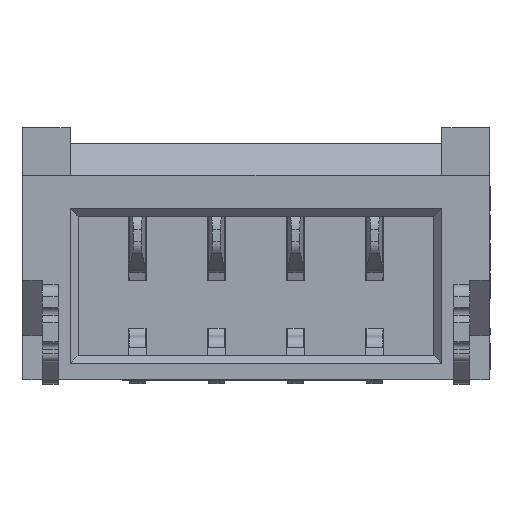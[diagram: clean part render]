
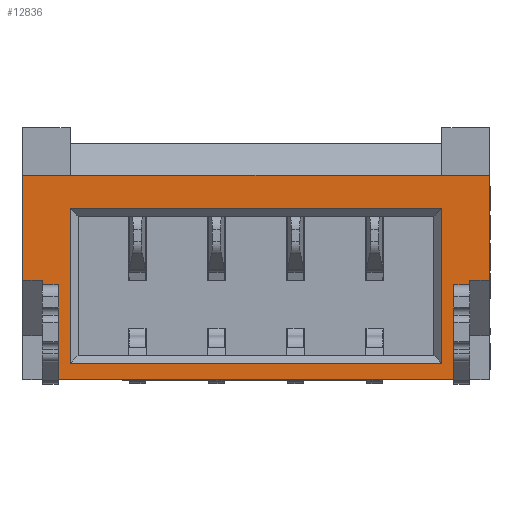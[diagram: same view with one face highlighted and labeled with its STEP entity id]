
A CAD part, top view. The second image highlights one B-rep face of the part: STEP entity #12836.
In plain terms, the highlighted planar face has unit normal (0, 0, 1).
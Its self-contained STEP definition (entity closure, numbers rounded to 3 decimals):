
#1469=DIRECTION('',(-1.,0.,0.));
#1470=VECTOR('',#1469,5.);
#1471=CARTESIAN_POINT('',(2.648,-1.718,6.375));
#1472=LINE('',#1471,#1470);
#2506=DIRECTION('',(0.,-1.,0.));
#2507=VECTOR('',#2506,1.19);
#2508=CARTESIAN_POINT('',(-2.352,-0.528,6.375));
#2509=LINE('',#2508,#2507);
#2510=DIRECTION('',(0.,-1.,0.));
#2511=VECTOR('',#2510,0.06);
#2512=CARTESIAN_POINT('',(-2.552,-0.468,6.375));
#2513=LINE('',#2512,#2511);
#2514=DIRECTION('',(1.,0.,0.));
#2515=VECTOR('',#2514,0.25);
#2516=CARTESIAN_POINT('',(-2.802,-0.468,6.375));
#2517=LINE('',#2516,#2515);
#2518=DIRECTION('',(-1.,0.,0.));
#2519=VECTOR('',#2518,5.9);
#2520=CARTESIAN_POINT('',(3.098,0.862,6.375));
#2521=LINE('',#2520,#2519);
#2522=DIRECTION('',(0.,1.,0.));
#2523=VECTOR('',#2522,1.33);
#2524=CARTESIAN_POINT('',(3.098,-0.468,6.375));
#2525=LINE('',#2524,#2523);
#2526=DIRECTION('',(1.,0.,0.));
#2527=VECTOR('',#2526,0.25);
#2528=CARTESIAN_POINT('',(2.848,-0.468,6.375));
#2529=LINE('',#2528,#2527);
#2530=DIRECTION('',(0.,1.,0.));
#2531=VECTOR('',#2530,0.06);
#2532=CARTESIAN_POINT('',(2.848,-0.528,6.375));
#2533=LINE('',#2532,#2531);
#2534=DIRECTION('',(1.,0.,0.));
#2535=VECTOR('',#2534,0.2);
#2536=CARTESIAN_POINT('',(2.648,-0.528,6.375));
#2537=LINE('',#2536,#2535);
#2538=DIRECTION('',(0.,1.,0.));
#2539=VECTOR('',#2538,1.19);
#2540=CARTESIAN_POINT('',(2.648,-1.718,6.375));
#2541=LINE('',#2540,#2539);
#2542=DIRECTION('',(-1.,0.,0.));
#2543=VECTOR('',#2542,4.7);
#2544=CARTESIAN_POINT('',(2.498,-1.518,6.375));
#2545=LINE('',#2544,#2543);
#2546=DIRECTION('',(0.,-1.,0.));
#2547=VECTOR('',#2546,1.96);
#2548=CARTESIAN_POINT('',(2.498,0.442,6.375));
#2549=LINE('',#2548,#2547);
#2550=DIRECTION('',(1.,0.,0.));
#2551=VECTOR('',#2550,4.7);
#2552=CARTESIAN_POINT('',(-2.202,0.442,6.375));
#2553=LINE('',#2552,#2551);
#2554=DIRECTION('',(0.,1.,0.));
#2555=VECTOR('',#2554,1.96);
#2556=CARTESIAN_POINT('',(-2.202,-1.518,6.375));
#2557=LINE('',#2556,#2555);
#2686=DIRECTION('',(0.,1.,0.));
#2687=VECTOR('',#2686,1.33);
#2688=CARTESIAN_POINT('',(-2.802,-0.468,6.375));
#2689=LINE('',#2688,#2687);
#8088=DIRECTION('',(-1.,0.,0.));
#8089=VECTOR('',#8088,0.2);
#8090=CARTESIAN_POINT('',(-2.352,-0.528,6.375));
#8091=LINE('',#8090,#8089);
#9947=CARTESIAN_POINT('',(-2.802,-0.468,6.375));
#9948=CARTESIAN_POINT('',(-2.552,-0.468,6.375));
#9949=VERTEX_POINT('',#9947);
#9950=VERTEX_POINT('',#9948);
#10015=CARTESIAN_POINT('',(-2.202,0.442,6.375));
#10016=CARTESIAN_POINT('',(2.498,0.442,6.375));
#10017=VERTEX_POINT('',#10015);
#10018=VERTEX_POINT('',#10016);
#10083=CARTESIAN_POINT('',(3.098,0.862,6.375));
#10085=VERTEX_POINT('',#10083);
#10126=CARTESIAN_POINT('',(2.848,-0.468,6.375));
#10128=VERTEX_POINT('',#10126);
#10141=CARTESIAN_POINT('',(3.098,-0.468,6.375));
#10142=VERTEX_POINT('',#10141);
#10159=CARTESIAN_POINT('',(-2.552,-0.528,6.375));
#10161=VERTEX_POINT('',#10159);
#10452=CARTESIAN_POINT('',(-2.352,-0.528,6.375));
#10453=CARTESIAN_POINT('',(-2.352,-1.718,6.375));
#10454=VERTEX_POINT('',#10452);
#10455=VERTEX_POINT('',#10453);
#10598=CARTESIAN_POINT('',(-2.802,0.862,6.375));
#10599=VERTEX_POINT('',#10598);
#10650=CARTESIAN_POINT('',(2.648,-0.528,6.375));
#10651=VERTEX_POINT('',#10650);
#10858=CARTESIAN_POINT('',(2.848,-0.528,6.375));
#10859=VERTEX_POINT('',#10858);
#10898=CARTESIAN_POINT('',(-2.202,-1.518,6.375));
#10899=VERTEX_POINT('',#10898);
#10924=CARTESIAN_POINT('',(2.648,-1.718,6.375));
#10925=VERTEX_POINT('',#10924);
#10954=CARTESIAN_POINT('',(2.498,-1.518,6.375));
#10955=VERTEX_POINT('',#10954);
#12796=CARTESIAN_POINT('',(7.098,0.862,6.375));
#12797=DIRECTION('',(0.,0.,-1.));
#12798=DIRECTION('',(-1.,0.,0.));
#12799=AXIS2_PLACEMENT_3D('',#12796,#12797,#12798);
#12800=PLANE('',#12799);
#12802=ORIENTED_EDGE('',*,*,#12801,.F.);
#12804=ORIENTED_EDGE('',*,*,#12803,.T.);
#12806=ORIENTED_EDGE('',*,*,#12805,.F.);
#12808=ORIENTED_EDGE('',*,*,#12807,.F.);
#12810=ORIENTED_EDGE('',*,*,#12809,.T.);
#12812=ORIENTED_EDGE('',*,*,#12811,.F.);
#12814=ORIENTED_EDGE('',*,*,#12813,.F.);
#12816=ORIENTED_EDGE('',*,*,#12815,.F.);
#12818=ORIENTED_EDGE('',*,*,#12817,.F.);
#12820=ORIENTED_EDGE('',*,*,#12819,.F.);
#12822=ORIENTED_EDGE('',*,*,#12821,.F.);
#12823=ORIENTED_EDGE('',*,*,#12338,.T.);
#12824=EDGE_LOOP('',(#12802,#12804,#12806,#12808,#12810,#12812,#12814,#12816,
#12818,#12820,#12822,#12823));
#12825=FACE_OUTER_BOUND('',#12824,.F.);
#12827=ORIENTED_EDGE('',*,*,#12826,.F.);
#12829=ORIENTED_EDGE('',*,*,#12828,.F.);
#12831=ORIENTED_EDGE('',*,*,#12830,.F.);
#12833=ORIENTED_EDGE('',*,*,#12832,.F.);
#12834=EDGE_LOOP('',(#12827,#12829,#12831,#12833));
#12835=FACE_BOUND('',#12834,.F.);
#12836=ADVANCED_FACE('',(#12825,#12835),#12800,.F.);
#12338=EDGE_CURVE('',#10925,#10455,#1472,.T.);
#12801=EDGE_CURVE('',#10454,#10455,#2509,.T.);
#12803=EDGE_CURVE('',#10454,#10161,#8091,.T.);
#12805=EDGE_CURVE('',#9950,#10161,#2513,.T.);
#12807=EDGE_CURVE('',#9949,#9950,#2517,.T.);
#12809=EDGE_CURVE('',#9949,#10599,#2689,.T.);
#12811=EDGE_CURVE('',#10085,#10599,#2521,.T.);
#12813=EDGE_CURVE('',#10142,#10085,#2525,.T.);
#12815=EDGE_CURVE('',#10128,#10142,#2529,.T.);
#12817=EDGE_CURVE('',#10859,#10128,#2533,.T.);
#12819=EDGE_CURVE('',#10651,#10859,#2537,.T.);
#12821=EDGE_CURVE('',#10925,#10651,#2541,.T.);
#12826=EDGE_CURVE('',#10955,#10899,#2545,.T.);
#12828=EDGE_CURVE('',#10018,#10955,#2549,.T.);
#12830=EDGE_CURVE('',#10017,#10018,#2553,.T.);
#12832=EDGE_CURVE('',#10899,#10017,#2557,.T.);
